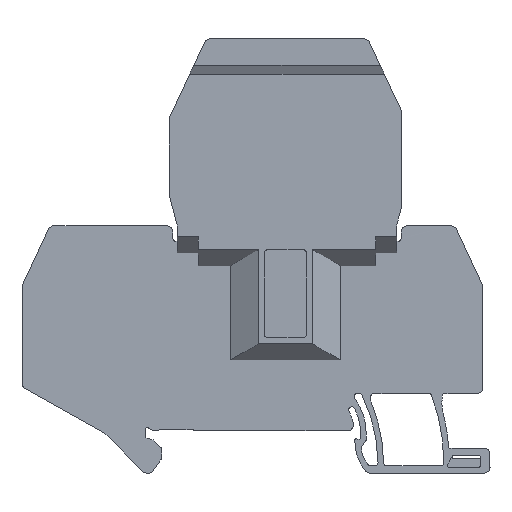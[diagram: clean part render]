
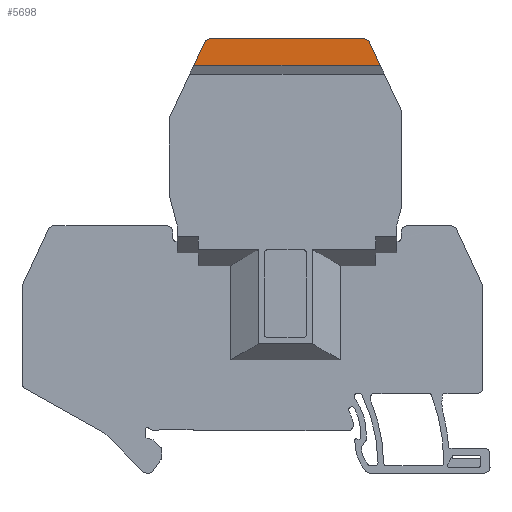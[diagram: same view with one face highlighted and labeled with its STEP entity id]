
A CAD part, left-side view. The second image highlights one B-rep face of the part: STEP entity #5698.
In plain terms, the highlighted planar face has unit normal (-1, 0, 0).
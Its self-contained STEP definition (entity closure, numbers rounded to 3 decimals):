
#1138=CARTESIAN_POINT('',(0.,19.427,69.473));
#1139=VERTEX_POINT('',#1138);
#1146=CARTESIAN_POINT('',(0.,17.691,65.75));
#1147=VERTEX_POINT('',#1146);
#1148=CARTESIAN_POINT('',(0.,19.427,69.473));
#1149=DIRECTION('',(0.,-0.423,-0.906));
#1150=VECTOR('',#1149,4.107);
#1151=LINE('',#1148,#1150);
#1152=EDGE_CURVE('',#1139,#1147,#1151,.T.);
#1250=CARTESIAN_POINT('',(0.,47.759,65.75));
#1251=VERTEX_POINT('',#1250);
#1258=CARTESIAN_POINT('',(0.,46.023,69.473));
#1259=VERTEX_POINT('',#1258);
#1260=CARTESIAN_POINT('',(0.,47.759,65.75));
#1261=DIRECTION('',(0.,-0.423,0.906));
#1262=VECTOR('',#1261,4.107);
#1263=LINE('',#1260,#1262);
#1264=EDGE_CURVE('',#1251,#1259,#1263,.T.);
#1816=CARTESIAN_POINT('',(0.,17.691,65.75));
#1817=DIRECTION('',(0.,1.,0.));
#1818=VECTOR('',#1817,30.069);
#1819=LINE('',#1816,#1818);
#1820=EDGE_CURVE('',#1147,#1251,#1819,.T.);
#2087=CARTESIAN_POINT('',(0.,45.117,70.05));
#2088=VERTEX_POINT('',#2087);
#2095=CARTESIAN_POINT('',(0.,20.333,70.05));
#2096=VERTEX_POINT('',#2095);
#2097=CARTESIAN_POINT('',(0.,45.117,70.05));
#2098=DIRECTION('',(0.,-1.,0.));
#2099=VECTOR('',#2098,24.784);
#2100=LINE('',#2097,#2099);
#2101=EDGE_CURVE('',#2088,#2096,#2100,.T.);
#2739=CARTESIAN_POINT('',(0.,20.333,69.05));
#2740=DIRECTION('',(0.,0.,1.));
#2741=DIRECTION('',(1.,0.,0.));
#2742=AXIS2_PLACEMENT_3D('',#2739,#2741,#2740);
#2743=CIRCLE('',#2742,1.);
#2744=EDGE_CURVE('',#2096,#1139,#2743,.T.);
#2755=CARTESIAN_POINT('',(0.,45.117,69.05));
#2756=DIRECTION('',(0.,0.906,0.423));
#2757=DIRECTION('',(1.,0.,0.));
#2758=AXIS2_PLACEMENT_3D('',#2755,#2757,#2756);
#2759=CIRCLE('',#2758,1.);
#2760=EDGE_CURVE('',#1259,#2088,#2759,.T.);
#5685=CARTESIAN_POINT('',(0.,32.725,67.9));
#5686=DIRECTION('',(0.,0.,-1.));
#5687=DIRECTION('',(-1.,0.,0.));
#5688=AXIS2_PLACEMENT_3D('',#5685,#5687,#5686);
#5689=PLANE('',#5688);
#5690=ORIENTED_EDGE('',*,*,#2101,.F.);
#5691=ORIENTED_EDGE('',*,*,#2760,.F.);
#5692=ORIENTED_EDGE('',*,*,#1264,.F.);
#5693=ORIENTED_EDGE('',*,*,#1820,.F.);
#5694=ORIENTED_EDGE('',*,*,#1152,.F.);
#5695=ORIENTED_EDGE('',*,*,#2744,.F.);
#5696=EDGE_LOOP('',(#5690,#5691,#5692,#5693,#5694,#5695));
#5697=FACE_OUTER_BOUND('',#5696,.T.);
#5698=ADVANCED_FACE('F410',(#5697),#5689,.T.);
